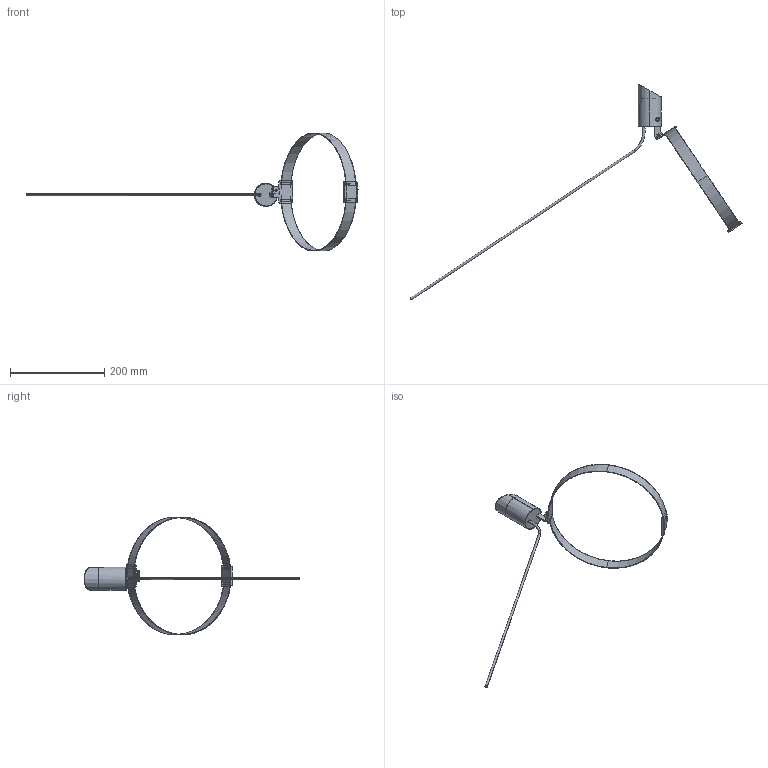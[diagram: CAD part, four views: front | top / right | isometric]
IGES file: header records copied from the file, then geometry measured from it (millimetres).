
Start section: SolidWorks IGES file using analytic representation for surfaces
Global section: file name: Y:\PRODUKT\Modele_3D_WWW\RUMI-LED\RUMI-LED zlozenie.IGS; native system: SolidWorks 2024; preprocessor: SolidWorks 2024; author: anna.bielnik; date: 250226.140702; units: millimetre
Bounding box: 703.44 x 457.49 x 250 mm (x, y, z)
Surface area: 92710.9 mm2 (no closed solid volume)
Topology: 0 solids, 0 shells, 151 faces, 2806 edges, 2806 vertices
Faces by surface type: bspline 91, revolution 60
